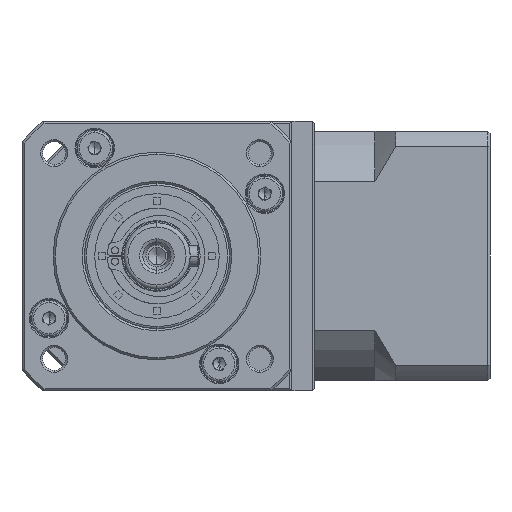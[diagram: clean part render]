
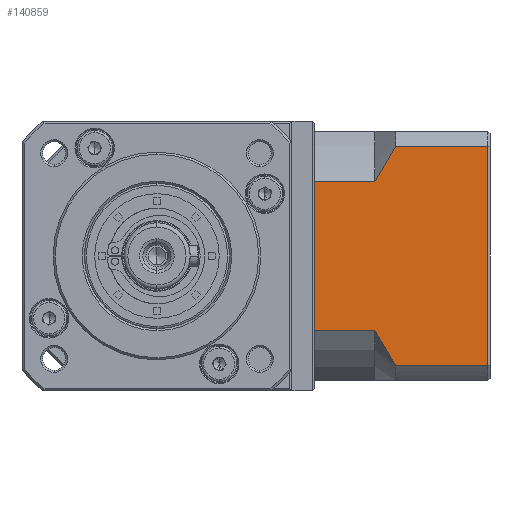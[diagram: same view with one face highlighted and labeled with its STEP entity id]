
A CAD part, left-side view. The second image highlights one B-rep face of the part: STEP entity #140859.
In plain terms, the highlighted planar face has unit normal (-1, 0, 0).
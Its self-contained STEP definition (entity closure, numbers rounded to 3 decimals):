
#107 = CARTESIAN_POINT ( 'NONE',  ( -32.751, -64.701, -138.741 ) ) ;
#4806 = VECTOR ( 'NONE', #25562, 1000. ) ;
#5399 = ORIENTED_EDGE ( 'NONE', *, *, #92522, .F. ) ;
#9282 = LINE ( 'NONE', #127088, #4806 ) ;
#9898 = VERTEX_POINT ( 'NONE', #30825 ) ;
#10170 = CARTESIAN_POINT ( 'NONE',  ( -32.751, -82.428, -85.023 ) ) ;
#15802 = FACE_OUTER_BOUND ( 'NONE', #39798, .T. ) ;
#17061 = LINE ( 'NONE', #148351, #89796 ) ;
#20311 = LINE ( 'NONE', #107, #58973 ) ;
#20818 = LINE ( 'NONE', #171057, #93551 ) ;
#24223 = ORIENTED_EDGE ( 'NONE', *, *, #62840, .F. ) ;
#24828 = CARTESIAN_POINT ( 'NONE',  ( -32.751, -79.949, -89.262 ) ) ;
#25562 = DIRECTION ( 'NONE',  ( 0., -1., 0. ) ) ;
#26935 = ORIENTED_EDGE ( 'NONE', *, *, #58321, .T. ) ;
#30825 = CARTESIAN_POINT ( 'NONE',  ( -32.751, -79.201, -90.714 ) ) ;
#32988 = VERTEX_POINT ( 'NONE', #181778 ) ;
#33953 = VERTEX_POINT ( 'NONE', #93946 ) ;
#36409 = VECTOR ( 'NONE', #96643, 1000. ) ;
#39798 = EDGE_LOOP ( 'NONE', ( #98863, #138721, #119964, #26935, #24223, #47922, #5399, #95537 ) ) ;
#45947 = CARTESIAN_POINT ( 'NONE',  ( -32.751, -106.901, -138.741 ) ) ;
#47728 = CARTESIAN_POINT ( 'NONE',  ( -32.751, -82.426, -132.456 ) ) ;
#47922 = ORIENTED_EDGE ( 'NONE', *, *, #107448, .T. ) ;
#58018 = CARTESIAN_POINT ( 'NONE',  ( -32.751, -79.201, -82.284 ) ) ;
#58321 = EDGE_CURVE ( 'NONE', #159162, #9898, #186344, .T. ) ;
#58840 = LINE ( 'NONE', #58018, #136020 ) ;
#58973 = VECTOR ( 'NONE', #87159, 1000. ) ;
#59945 = PLANE ( 'NONE',  #124077 ) ;
#60045 = EDGE_CURVE ( 'NONE', #160903, #145198, #17061, .T. ) ;
#60560 = DIRECTION ( 'NONE',  ( 0., 1., 0. ) ) ;
#62353 = CARTESIAN_POINT ( 'NONE',  ( -32.751, -84.201, -135.199 ) ) ;
#62840 = EDGE_CURVE ( 'NONE', #33953, #9898, #9282, .T. ) ;
#63750 = CARTESIAN_POINT ( 'NONE',  ( -32.751, -106.401, -82.284 ) ) ;
#85245 = CARTESIAN_POINT ( 'NONE',  ( -32.751, -84.201, -135.199 ) ) ;
#87159 = DIRECTION ( 'NONE',  ( 0., 0., -1. ) ) ;
#89796 = VECTOR ( 'NONE', #162893, 1000. ) ;
#92522 = EDGE_CURVE ( 'NONE', #168777, #32988, #186211, .T. ) ;
#92789 = B_SPLINE_CURVE_WITH_KNOTS ( 'NONE', 3,
 ( #120027, #105435, #134654, #47728, #149134, #62353 ),
 .UNSPECIFIED., .F., .F.,
 ( 4, 2, 4 ),
 ( 0.1, 0.104, 0.109 ),
 .UNSPECIFIED. ) ;
#93551 = VECTOR ( 'NONE', #185597, 1000. ) ;
#93946 = CARTESIAN_POINT ( 'NONE',  ( -32.751, -64.701, -90.714 ) ) ;
#95273 = EDGE_CURVE ( 'NONE', #159162, #145198, #58840, .T. ) ;
#95537 = ORIENTED_EDGE ( 'NONE', *, *, #103432, .T. ) ;
#96643 = DIRECTION ( 'NONE',  ( 0., 1., 0. ) ) ;
#97208 = CARTESIAN_POINT ( 'NONE',  ( -32.751, -84.201, -82.284 ) ) ;
#98863 = ORIENTED_EDGE ( 'NONE', *, *, #106698, .F. ) ;
#103432 = EDGE_CURVE ( 'NONE', #168777, #177390, #92789, .T. ) ;
#105435 = CARTESIAN_POINT ( 'NONE',  ( -32.751, -79.951, -128.226 ) ) ;
#106698 = EDGE_CURVE ( 'NONE', #160903, #177390, #20818, .T. ) ;
#107448 = EDGE_CURVE ( 'NONE', #33953, #32988, #20311, .T. ) ;
#111765 = CARTESIAN_POINT ( 'NONE',  ( -32.751, -80.753, -87.83 ) ) ;
#118995 = CARTESIAN_POINT ( 'NONE',  ( -32.751, -84.201, -82.284 ) ) ;
#119162 = CARTESIAN_POINT ( 'NONE',  ( -32.751, -79.201, -126.769 ) ) ;
#119964 = ORIENTED_EDGE ( 'NONE', *, *, #95273, .F. ) ;
#120027 = CARTESIAN_POINT ( 'NONE',  ( -32.751, -79.201, -126.769 ) ) ;
#124077 = AXIS2_PLACEMENT_3D ( 'NONE', #45947, #147316, #60560 ) ;
#126361 = CARTESIAN_POINT ( 'NONE',  ( -32.751, -79.201, -90.714 ) ) ;
#127088 = CARTESIAN_POINT ( 'NONE',  ( -32.751, -79.201, -90.714 ) ) ;
#131126 = CARTESIAN_POINT ( 'NONE',  ( -32.751, -106.401, -135.199 ) ) ;
#134654 = CARTESIAN_POINT ( 'NONE',  ( -32.751, -80.752, -129.651 ) ) ;
#136020 = VECTOR ( 'NONE', #159390, 1000. ) ;
#138721 = ORIENTED_EDGE ( 'NONE', *, *, #60045, .T. ) ;
#140859 = ADVANCED_FACE ( 'NONE', ( #15802 ), #59945, .F. ) ;
#145198 = VERTEX_POINT ( 'NONE', #63750 ) ;
#147316 = DIRECTION ( 'NONE',  ( 1., 0., 0. ) ) ;
#148351 = CARTESIAN_POINT ( 'NONE',  ( -32.751, -106.401, -138.741 ) ) ;
#149134 = CARTESIAN_POINT ( 'NONE',  ( -32.751, -83.3, -133.836 ) ) ;
#159162 = VERTEX_POINT ( 'NONE', #118995 ) ;
#159390 = DIRECTION ( 'NONE',  ( 0., -1., 0. ) ) ;
#160903 = VERTEX_POINT ( 'NONE', #131126 ) ;
#162893 = DIRECTION ( 'NONE',  ( 0., 0., 1. ) ) ;
#168777 = VERTEX_POINT ( 'NONE', #119162 ) ;
#168847 = CARTESIAN_POINT ( 'NONE',  ( -32.751, -79.201, -126.769 ) ) ;
#171057 = CARTESIAN_POINT ( 'NONE',  ( -32.751, -79.201, -135.199 ) ) ;
#177390 = VERTEX_POINT ( 'NONE', #85245 ) ;
#181778 = CARTESIAN_POINT ( 'NONE',  ( -32.751, -64.701, -126.769 ) ) ;
#184007 = CARTESIAN_POINT ( 'NONE',  ( -32.751, -83.302, -83.644 ) ) ;
#185597 = DIRECTION ( 'NONE',  ( 0., 1., 0. ) ) ;
#186211 = LINE ( 'NONE', #168847, #36409 ) ;
#186344 = B_SPLINE_CURVE_WITH_KNOTS ( 'NONE', 3,
 ( #97208, #184007, #10170, #111765, #24828, #126361 ),
 .UNSPECIFIED., .F., .F.,
 ( 4, 2, 4 ),
 ( 0.052, 0.057, 0.062 ),
 .UNSPECIFIED. ) ;
